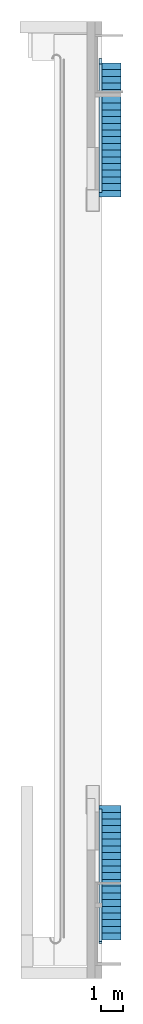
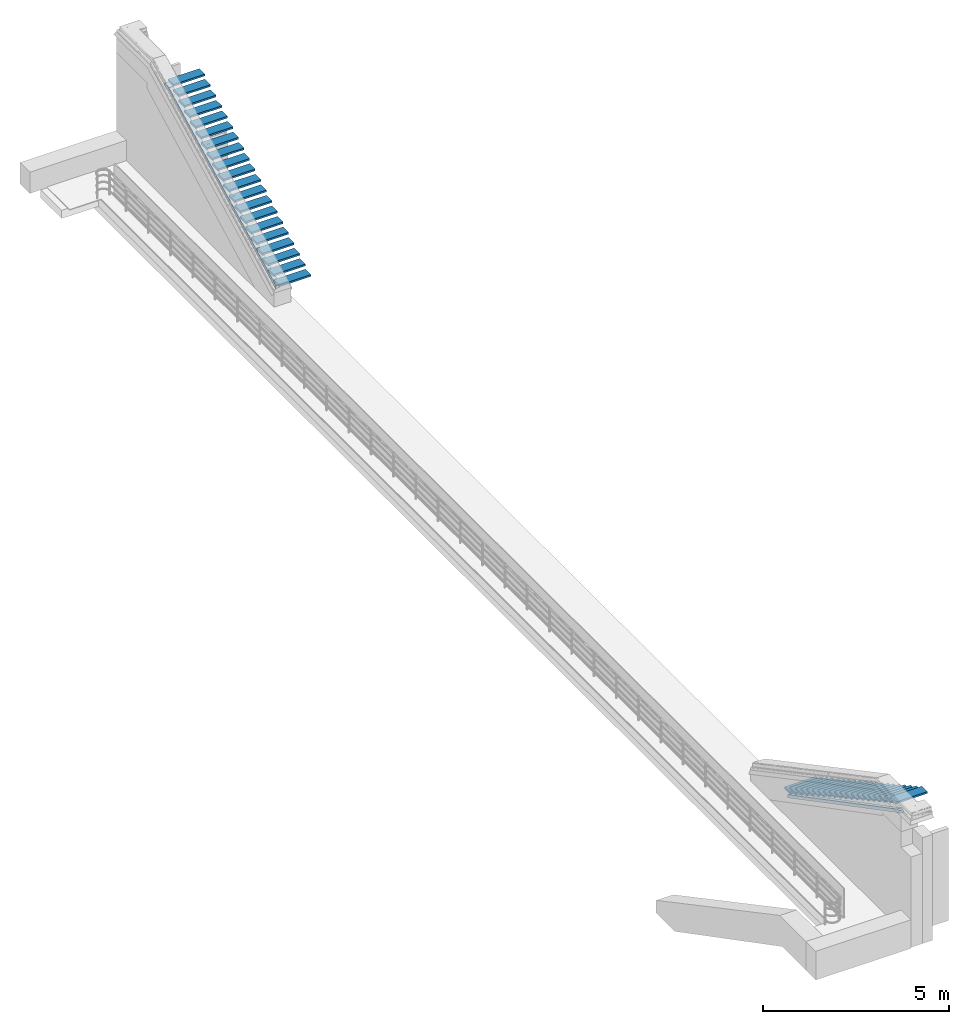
# One storey, part 2 of 5: 2 roofs, 2 stair flights, 2 elements without a shape of their own.
"""IFC2X3 building model written with IfcOpenShell, lengths in millimetres."""

from ifc_helpers import new_model, entity, si_unit, converted_unit, derived_unit, direction, frame, frame_2d, origin, origin_2d_with_axis, place, context, subcontext, project, spatial, rectangle, extrude, faceted_brep, material, layer, layer_set, type_object, element, aggregate, save


model = new_model("IFC2X3")

# Units and contexts
model_context = context("Model", 3, precision=0.01, world=origin(), true_north=direction((6.123031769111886e-17, 1.0)))
body_context = subcontext(model_context, "Body", "Model", "MODEL_VIEW")
ifc_project = project(units=[si_unit("LENGTHUNIT", "METRE", prefix="MILLI"), si_unit("AREAUNIT", "SQUARE_METRE"), si_unit("VOLUMEUNIT", "CUBIC_METRE"), converted_unit("PLANEANGLEUNIT", "DEGREE", entity("IfcPlaneAngleMeasure", 0.017453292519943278), si_unit("PLANEANGLEUNIT", "RADIAN"), dimensions=[0, 0, 0, 0, 0, 0, 0]), si_unit("MASSUNIT", "GRAM", prefix="KILO"), derived_unit("MASSDENSITYUNIT", [(si_unit("MASSUNIT", "GRAM", prefix="KILO"), 1), (si_unit("LENGTHUNIT", "METRE"), -3)]), derived_unit("IONCONCENTRATIONUNIT", [(si_unit("MASSUNIT", "GRAM", prefix="KILO"), 1), (si_unit("LENGTHUNIT", "METRE"), -3)]), derived_unit("MOMENTOFINERTIAUNIT", [(si_unit("LENGTHUNIT", "METRE"), 4)]), si_unit("TIMEUNIT", "SECOND"), si_unit("FREQUENCYUNIT", "HERTZ"), si_unit("THERMODYNAMICTEMPERATUREUNIT", "DEGREE_CELSIUS"), derived_unit("THERMALTRANSMITTANCEUNIT", [(si_unit("MASSUNIT", "GRAM", prefix="KILO"), 1), (si_unit("THERMODYNAMICTEMPERATUREUNIT", "KELVIN"), -1), (si_unit("TIMEUNIT", "SECOND"), -3)]), derived_unit("THERMALCONDUCTANCEUNIT", [(si_unit("MASSUNIT", "GRAM", prefix="KILO"), 1), (si_unit("THERMODYNAMICTEMPERATUREUNIT", "KELVIN"), -1), (si_unit("TIMEUNIT", "SECOND"), -3), (si_unit("LENGTHUNIT", "METRE"), 1)]), derived_unit("VOLUMETRICFLOWRATEUNIT", [(si_unit("LENGTHUNIT", "METRE", prefix="DECI"), 3), (si_unit("TIMEUNIT", "SECOND"), -1)]), derived_unit("MASSFLOWRATEUNIT", [(si_unit("MASSUNIT", "GRAM", prefix="KILO"), 1), (si_unit("TIMEUNIT", "SECOND"), -1)]), derived_unit("ROTATIONALFREQUENCYUNIT", [(si_unit("TIMEUNIT", "SECOND"), -1)]), si_unit("ELECTRICCURRENTUNIT", "AMPERE"), si_unit("ELECTRICVOLTAGEUNIT", "VOLT"), si_unit("POWERUNIT", "WATT"), si_unit("FORCEUNIT", "NEWTON", prefix="KILO"), si_unit("ILLUMINANCEUNIT", "LUX"), si_unit("LUMINOUSFLUXUNIT", "LUMEN"), si_unit("LUMINOUSINTENSITYUNIT", "CANDELA"), si_unit("ENERGYUNIT", "JOULE"), derived_unit("USERDEFINED", [(si_unit("MASSUNIT", "GRAM", prefix="KILO"), -1), (si_unit("LENGTHUNIT", "METRE"), -2), (si_unit("TIMEUNIT", "SECOND"), 3), (si_unit("LUMINOUSFLUXUNIT", "LUMEN"), 1)]), derived_unit("USERDEFINED", [(si_unit("MASSUNIT", "GRAM", prefix="KILO"), 1), (si_unit("TIMEUNIT", "SECOND"), -3), (si_unit("LENGTHUNIT", "METRE"), 3), (si_unit("ELECTRICCURRENTUNIT", "AMPERE"), -2)]), derived_unit("SOUNDPOWERUNIT", [(si_unit("MASSUNIT", "GRAM", prefix="KILO"), 1), (si_unit("TIMEUNIT", "SECOND"), -3), (si_unit("LENGTHUNIT", "METRE"), 2)]), derived_unit("SOUNDPRESSUREUNIT", [(si_unit("MASSUNIT", "GRAM", prefix="KILO"), 1), (si_unit("LENGTHUNIT", "METRE"), -1), (si_unit("TIMEUNIT", "SECOND"), -2)]), derived_unit("LINEARVELOCITYUNIT", [(si_unit("LENGTHUNIT", "METRE"), 1), (si_unit("TIMEUNIT", "SECOND"), -1)]), si_unit("PRESSUREUNIT", "PASCAL"), derived_unit("USERDEFINED", [(si_unit("MASSUNIT", "GRAM", prefix="KILO"), 1), (si_unit("LENGTHUNIT", "METRE"), -2), (si_unit("TIMEUNIT", "SECOND"), -2)]), derived_unit("LINEARFORCEUNIT", [(si_unit("MASSUNIT", "GRAM", prefix="KILO"), 1), (si_unit("TIMEUNIT", "SECOND"), -2)]), derived_unit("PLANARFORCEUNIT", [(si_unit("MASSUNIT", "GRAM", prefix="KILO"), 1), (si_unit("LENGTHUNIT", "METRE"), -1), (si_unit("TIMEUNIT", "SECOND"), -2)]), derived_unit("SPECIFICHEATCAPACITYUNIT", [(si_unit("THERMODYNAMICTEMPERATUREUNIT", "KELVIN"), -1), (si_unit("LENGTHUNIT", "METRE"), 2), (si_unit("TIMEUNIT", "SECOND"), -2)]), derived_unit("HEATFLUXDENSITYUNIT", [(si_unit("MASSUNIT", "GRAM", prefix="KILO"), 1), (si_unit("TIMEUNIT", "SECOND"), -3)]), derived_unit("HEATINGVALUEUNIT", [(si_unit("LENGTHUNIT", "METRE"), 2), (si_unit("TIMEUNIT", "SECOND"), -2)]), derived_unit("VAPORPERMEABILITYUNIT", [(si_unit("LENGTHUNIT", "METRE"), -1), (si_unit("TIMEUNIT", "SECOND"), 1)]), derived_unit("DYNAMICVISCOSITYUNIT", [(si_unit("MASSUNIT", "GRAM", prefix="KILO"), 1), (si_unit("TIMEUNIT", "SECOND"), -1), (si_unit("LENGTHUNIT", "METRE"), -1)]), derived_unit("THERMALEXPANSIONCOEFFICIENTUNIT", [(si_unit("THERMODYNAMICTEMPERATUREUNIT", "KELVIN"), -1)]), derived_unit("MODULUSOFELASTICITYUNIT", [(si_unit("MASSUNIT", "GRAM", prefix="KILO"), 1), (si_unit("LENGTHUNIT", "METRE"), -1), (si_unit("TIMEUNIT", "SECOND"), -2)]), derived_unit("ISOTHERMALMOISTURECAPACITYUNIT", [(si_unit("MASSUNIT", "GRAM", prefix="KILO"), -1), (si_unit("LENGTHUNIT", "METRE"), 3)]), derived_unit("MOISTUREDIFFUSIVITYUNIT", [(si_unit("TIMEUNIT", "SECOND"), -1), (si_unit("LENGTHUNIT", "METRE"), 2)]), derived_unit("MASSPERLENGTHUNIT", [(si_unit("MASSUNIT", "GRAM", prefix="KILO"), 1), (si_unit("LENGTHUNIT", "METRE"), -1)]), derived_unit("THERMALRESISTANCEUNIT", [(si_unit("MASSUNIT", "GRAM", prefix="KILO"), -1), (si_unit("TIMEUNIT", "SECOND"), 3), (si_unit("THERMODYNAMICTEMPERATUREUNIT", "KELVIN"), 1)]), derived_unit("ACCELERATIONUNIT", [(si_unit("LENGTHUNIT", "METRE"), 1), (si_unit("TIMEUNIT", "SECOND"), -2)]), derived_unit("ANGULARVELOCITYUNIT", [(si_unit("TIMEUNIT", "SECOND"), -1), (si_unit("PLANEANGLEUNIT", "RADIAN"), 1)]), derived_unit("LINEARSTIFFNESSUNIT", [(si_unit("MASSUNIT", "GRAM", prefix="KILO"), 1), (si_unit("TIMEUNIT", "SECOND"), -2)]), derived_unit("WARPINGCONSTANTUNIT", [(si_unit("LENGTHUNIT", "METRE"), 6)]), derived_unit("LINEARMOMENTUNIT", [(si_unit("MASSUNIT", "GRAM", prefix="KILO"), 1), (si_unit("LENGTHUNIT", "METRE"), 1), (si_unit("TIMEUNIT", "SECOND"), -2)]), derived_unit("TORQUEUNIT", [(si_unit("MASSUNIT", "GRAM", prefix="KILO"), 1), (si_unit("LENGTHUNIT", "METRE"), 2), (si_unit("TIMEUNIT", "SECOND"), -2)])], contexts=[model_context])

# Site, building, storey
site_placement = place(None, origin())
site = spatial("IfcSite", under=ifc_project, at=site_placement, Name="Default", CompositionType="ELEMENT")
building_placement = place(site_placement, origin())
building = spatial("IfcBuilding", under=site, at=building_placement, Name="Eesti Rahvusraamatukogu hoone renoveerimise projekteerimistööd", CompositionType="ELEMENT")
storey_placement = place(building_placement, frame((0.0, 0.0, 11550.000000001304)))
storey = spatial("IfcBuildingStorey", under=building, at=storey_placement, Name="4. korrus", CompositionType="ELEMENT", Elevation=11550.000000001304)

# Stair, stair flight
stair_1_placement = place(storey_placement, origin())
stair_1 = element("IfcStair", 1, at=stair_1_placement, inside=storey, Name="Assembled Stair:Stair", ObjectType="Assembled Stair:VTR-11, 165x300mm", ShapeType="STRAIGHT_RUN_STAIR")
ifc_material_1 = material(Name="EST. Betoonplaat")
stair_flight_type = type_object("IfcStairFlightType", Name="Non-Monolithic Run:Graniitplaat 60mm", PredefinedType="STRAIGHT")
stair_flight_1_placement = place(stair_1_placement, frame((-31750.0, 40926.00000000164, 0.0)))
stair_flight_1 = element("IfcStairFlight", 2, at=stair_flight_1_placement, type_object=stair_flight_type, material=ifc_material_1, Name="Assembled Stair:Stair:12056405 Run 1", ObjectType="Non-Monolithic Run:Graniitplaat 60mm", NumberOfRiser=20, NumberOfTreads=20, RiserHeight=0.5413385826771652, TreadLength=0.984251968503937, context=body_context, shape_type="SweptSolid", body=[
    extrude(rectangle(XDim=300.0000000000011, YDim=980.0000000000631, at=frame_2d((0.0, 4.320099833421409e-12), x_axis=(1.0, 0.0))), frame((490.0, 150.0, 345.0), z_axis=(0.0, 0.0, 1.0), x_axis=(0.0, -1.0, 0.0)), (0.0, 0.0, 1.0), 59.99999999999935),
    extrude(rectangle(XDim=300.0000000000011, YDim=980.0000000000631, at=frame_2d((0.0, 4.320099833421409e-12), x_axis=(1.0, 0.0))), frame((490.0, 450.0, 510.0), z_axis=(0.0, 0.0, 1.0), x_axis=(0.0, -1.0, 0.0)), (0.0, 0.0, 1.0), 59.99999999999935),
    extrude(rectangle(XDim=300.0000000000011, YDim=980.0000000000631, at=frame_2d((0.0, 4.320099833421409e-12), x_axis=(1.0, 0.0))), frame((490.0, 750.0, 675.0), z_axis=(0.0, 0.0, 1.0), x_axis=(0.0, -1.0, 0.0)), (0.0, 0.0, 1.0), 59.99999999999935),
    extrude(rectangle(XDim=300.0000000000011, YDim=980.0000000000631, at=frame_2d((0.0, 4.320099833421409e-12), x_axis=(1.0, 0.0))), frame((490.0, 1050.0, 840.0), z_axis=(0.0, 0.0, 1.0), x_axis=(0.0, -1.0, 0.0)), (0.0, 0.0, 1.0), 59.99999999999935),
    extrude(rectangle(XDim=300.0000000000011, YDim=980.0000000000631, at=origin_2d_with_axis()), frame((490.0, 1350.0, 1005.0), z_axis=(0.0, 0.0, 1.0), x_axis=(0.0, -1.0, 0.0)), (0.0, 0.0, 1.0), 59.99999999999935),
    extrude(rectangle(XDim=300.0000000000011, YDim=980.0000000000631, at=origin_2d_with_axis()), frame((490.0, 1650.0, 1170.0), z_axis=(0.0, 0.0, 1.0), x_axis=(0.0, -1.0, 0.0)), (0.0, 0.0, 1.0), 59.99999999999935),
    extrude(rectangle(XDim=300.0000000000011, YDim=980.0000000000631, at=origin_2d_with_axis()), frame((490.0, 1950.0, 1335.0), z_axis=(0.0, 0.0, 1.0), x_axis=(0.0, -1.0, 0.0)), (0.0, 0.0, 1.0), 59.99999999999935),
    extrude(rectangle(XDim=300.0000000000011, YDim=980.0000000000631, at=origin_2d_with_axis()), frame((490.0, 2250.0, 1500.0), z_axis=(0.0, 0.0, 1.0), x_axis=(0.0, -1.0, 0.0)), (0.0, 0.0, 1.0), 59.99999999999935),
    extrude(rectangle(XDim=300.0000000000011, YDim=980.0000000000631, at=origin_2d_with_axis()), frame((490.0, 2550.0, 1665.0), z_axis=(0.0, 0.0, 1.0), x_axis=(0.0, -1.0, 0.0)), (0.0, 0.0, 1.0), 59.99999999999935),
    extrude(rectangle(XDim=300.0000000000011, YDim=980.0000000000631, at=origin_2d_with_axis()), frame((490.0, 2850.0, 1830.0), z_axis=(0.0, 0.0, 1.0), x_axis=(0.0, -1.0, 0.0)), (0.0, 0.0, 1.0), 59.99999999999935),
    extrude(rectangle(XDim=300.0000000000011, YDim=980.0000000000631, at=origin_2d_with_axis()), frame((490.0, 3150.0, 1995.0), z_axis=(0.0, 0.0, 1.0), x_axis=(0.0, -1.0, 0.0)), (0.0, 0.0, 1.0), 59.99999999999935),
    extrude(rectangle(XDim=300.0000000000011, YDim=980.0000000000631, at=origin_2d_with_axis()), frame((490.0, 3450.0, 2160.0), z_axis=(0.0, 0.0, 1.0), x_axis=(0.0, -1.0, 0.0)), (0.0, 0.0, 1.0), 59.99999999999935),
    extrude(rectangle(XDim=300.0000000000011, YDim=980.0000000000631, at=origin_2d_with_axis()), frame((490.0, 3750.0, 2325.0), z_axis=(0.0, 0.0, 1.0), x_axis=(0.0, -1.0, 0.0)), (0.0, 0.0, 1.0), 59.99999999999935),
    extrude(rectangle(XDim=300.0000000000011, YDim=980.0000000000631, at=origin_2d_with_axis()), frame((490.0, 4050.0, 2490.0), z_axis=(0.0, 0.0, 1.0), x_axis=(0.0, -1.0, 0.0)), (0.0, 0.0, 1.0), 59.99999999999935),
    extrude(rectangle(XDim=300.0000000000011, YDim=980.0000000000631, at=origin_2d_with_axis()), frame((490.0, 4350.0, 2655.0), z_axis=(0.0, 0.0, 1.0), x_axis=(0.0, -1.0, 0.0)), (0.0, 0.0, 1.0), 59.99999999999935),
    extrude(rectangle(XDim=300.0000000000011, YDim=980.0000000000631, at=origin_2d_with_axis()), frame((490.0, 4650.0, 2820.0), z_axis=(0.0, 0.0, 1.0), x_axis=(0.0, -1.0, 0.0)), (0.0, 0.0, 1.0), 59.99999999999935),
    extrude(rectangle(XDim=300.0000000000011, YDim=980.0000000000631, at=origin_2d_with_axis()), frame((490.0, 4950.0, 2985.0), z_axis=(0.0, 0.0, 1.0), x_axis=(0.0, -1.0, 0.0)), (0.0, 0.0, 1.0), 59.99999999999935),
    extrude(rectangle(XDim=300.0000000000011, YDim=980.0000000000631, at=origin_2d_with_axis()), frame((490.0, 5250.0, 3150.0), z_axis=(0.0, 0.0, 1.0), x_axis=(0.0, -1.0, 0.0)), (0.0, 0.0, 1.0), 59.99999999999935),
    extrude(rectangle(XDim=300.0000000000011, YDim=980.0000000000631, at=origin_2d_with_axis()), frame((490.0, 5550.0, 3315.0), z_axis=(0.0, 0.0, 1.0), x_axis=(0.0, -1.0, 0.0)), (0.0, 0.0, 1.0), 59.99999999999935),
    extrude(rectangle(XDim=300.0000000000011, YDim=980.0000000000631, at=origin_2d_with_axis()), frame((490.0, 5850.0, 3480.0), z_axis=(0.0, 0.0, 1.0), x_axis=(0.0, -1.0, 0.0)), (0.0, 0.0, 1.0), 59.99999999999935),
])
aggregate(stair_1, [stair_flight_1])

stair_2_placement = place(storey_placement, origin())
stair_2 = element("IfcStair", 3, at=stair_2_placement, inside=storey, Name="Assembled Stair:Stair", ObjectType="Assembled Stair:VTR-11, 165x300mm", ShapeType="STRAIGHT_RUN_STAIR")
stair_flight_2_placement = place(stair_2_placement, frame((-31750.0, 7733.999999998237, 0.0)))
stair_flight_2 = element("IfcStairFlight", 4, at=stair_flight_2_placement, type_object=stair_flight_type, material=ifc_material_1, Name="Assembled Stair:Stair:12056749 Run 1", ObjectType="Non-Monolithic Run:Graniitplaat 60mm", NumberOfRiser=20, NumberOfTreads=20, RiserHeight=0.5413385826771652, TreadLength=0.984251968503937, context=body_context, shape_type="SweptSolid", body=[
    extrude(rectangle(XDim=300.0000000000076, YDim=980.0000000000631, at=frame_2d((-3.254285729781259e-12, 0.0), x_axis=(1.0, 0.0))), frame((490.0, 5850.0, 345.0), z_axis=(0.0, 0.0, 1.0), x_axis=(0.0, 1.0, 0.0)), (0.0, 0.0, 1.0), 59.99999999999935),
    extrude(rectangle(XDim=299.99999999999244, YDim=980.0000000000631, at=frame_2d((4.334310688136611e-12, 2.1600499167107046e-12), x_axis=(1.0, 0.0))), frame((490.0, 5550.0, 510.0), z_axis=(0.0, 0.0, 1.0), x_axis=(0.0, 1.0, 0.0)), (0.0, 0.0, 1.0), 59.99999999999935),
    extrude(rectangle(XDim=299.99999999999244, YDim=980.0000000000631, at=frame_2d((2.1600499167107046e-12, 2.1600499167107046e-12), x_axis=(1.0, 0.0))), frame((490.0, 5250.0, 675.0), z_axis=(0.0, 0.0, 1.0), x_axis=(0.0, 1.0, 0.0)), (0.0, 0.0, 1.0), 59.99999999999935),
    extrude(rectangle(XDim=299.99999999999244, YDim=980.0000000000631, at=frame_2d((2.1600499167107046e-12, 2.1600499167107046e-12), x_axis=(1.0, 0.0))), frame((490.0, 4950.0, 840.0), z_axis=(0.0, 0.0, 1.0), x_axis=(0.0, 1.0, 0.0)), (0.0, 0.0, 1.0), 59.99999999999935),
    extrude(rectangle(XDim=299.99999999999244, YDim=980.0000000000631, at=frame_2d((2.1600499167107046e-12, 2.1600499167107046e-12), x_axis=(1.0, 0.0))), frame((490.0, 4650.0, 1005.0), z_axis=(0.0, 0.0, 1.0), x_axis=(0.0, 1.0, 0.0)), (0.0, 0.0, 1.0), 59.99999999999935),
    extrude(rectangle(XDim=299.99999999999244, YDim=980.0000000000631, at=frame_2d((2.1600499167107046e-12, 2.1600499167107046e-12), x_axis=(1.0, 0.0))), frame((490.0, 4350.0, 1170.0), z_axis=(0.0, 0.0, 1.0), x_axis=(0.0, 1.0, 0.0)), (0.0, 0.0, 1.0), 59.99999999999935),
    extrude(rectangle(XDim=299.99999999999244, YDim=980.0000000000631, at=frame_2d((4.334310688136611e-12, 2.1600499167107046e-12), x_axis=(1.0, 0.0))), frame((490.0, 4050.0, 1335.0), z_axis=(0.0, 0.0, 1.0), x_axis=(0.0, 1.0, 0.0)), (0.0, 0.0, 1.0), 59.99999999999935),
    extrude(rectangle(XDim=299.99999999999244, YDim=980.0000000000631, at=frame_2d((2.1600499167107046e-12, -2.1600499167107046e-12), x_axis=(1.0, 0.0))), frame((490.0, 3750.0, 1500.0), z_axis=(0.0, 0.0, 1.0), x_axis=(0.0, 1.0, 0.0)), (0.0, 0.0, 1.0), 59.99999999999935),
    extrude(rectangle(XDim=299.99999999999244, YDim=980.0000000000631, at=frame_2d((2.1600499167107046e-12, -2.1600499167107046e-12), x_axis=(1.0, 0.0))), frame((490.0, 3450.0, 1665.0), z_axis=(0.0, 0.0, 1.0), x_axis=(0.0, 1.0, 0.0)), (0.0, 0.0, 1.0), 59.99999999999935),
    extrude(rectangle(XDim=299.99999999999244, YDim=980.0000000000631, at=frame_2d((2.1600499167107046e-12, -2.1600499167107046e-12), x_axis=(1.0, 0.0))), frame((490.0, 3150.0, 1830.0), z_axis=(0.0, 0.0, 1.0), x_axis=(0.0, 1.0, 0.0)), (0.0, 0.0, 1.0), 59.99999999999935),
    extrude(rectangle(XDim=299.99999999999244, YDim=980.0000000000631, at=frame_2d((2.1600499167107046e-12, -2.1600499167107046e-12), x_axis=(1.0, 0.0))), frame((490.0, 2850.0, 1995.0), z_axis=(0.0, 0.0, 1.0), x_axis=(0.0, 1.0, 0.0)), (0.0, 0.0, 1.0), 59.99999999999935),
    extrude(rectangle(XDim=299.99999999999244, YDim=980.0000000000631, at=frame_2d((2.1600499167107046e-12, -2.1600499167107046e-12), x_axis=(1.0, 0.0))), frame((490.0, 2550.0, 2160.0), z_axis=(0.0, 0.0, 1.0), x_axis=(0.0, 1.0, 0.0)), (0.0, 0.0, 1.0), 59.99999999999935),
    extrude(rectangle(XDim=299.99999999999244, YDim=980.0000000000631, at=frame_2d((2.1600499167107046e-12, 2.1600499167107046e-12), x_axis=(1.0, 0.0))), frame((490.0, 2250.0, 2325.0), z_axis=(0.0, 0.0, 1.0), x_axis=(0.0, 1.0, 0.0)), (0.0, 0.0, 1.0), 59.99999999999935),
    extrude(rectangle(XDim=299.99999999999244, YDim=980.0000000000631, at=frame_2d((2.1600499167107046e-12, 2.1600499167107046e-12), x_axis=(1.0, 0.0))), frame((490.0, 1950.0, 2490.0), z_axis=(0.0, 0.0, 1.0), x_axis=(0.0, 1.0, 0.0)), (0.0, 0.0, 1.0), 59.99999999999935),
    extrude(rectangle(XDim=299.99999999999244, YDim=980.0000000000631, at=frame_2d((3.254285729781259e-12, 2.1600499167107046e-12), x_axis=(1.0, 0.0))), frame((490.0, 1650.0, 2655.0), z_axis=(0.0, 0.0, 1.0), x_axis=(0.0, 1.0, 0.0)), (0.0, 0.0, 1.0), 59.99999999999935),
    extrude(rectangle(XDim=299.99999999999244, YDim=980.0000000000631, at=frame_2d((3.254285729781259e-12, 2.1600499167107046e-12), x_axis=(1.0, 0.0))), frame((490.0, 1350.0, 2820.0), z_axis=(0.0, 0.0, 1.0), x_axis=(0.0, 1.0, 0.0)), (0.0, 0.0, 1.0), 59.99999999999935),
    extrude(rectangle(XDim=299.99999999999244, YDim=980.0000000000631, at=frame_2d((3.254285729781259e-12, 2.1600499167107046e-12), x_axis=(1.0, 0.0))), frame((490.0, 1050.0, 2985.0), z_axis=(0.0, 0.0, 1.0), x_axis=(0.0, 1.0, 0.0)), (0.0, 0.0, 1.0), 59.99999999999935),
    extrude(rectangle(XDim=299.99999999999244, YDim=980.0000000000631, at=frame_2d((3.254285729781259e-12, 2.1600499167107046e-12), x_axis=(1.0, 0.0))), frame((490.0, 750.0, 3150.0), z_axis=(0.0, 0.0, 1.0), x_axis=(0.0, 1.0, 0.0)), (0.0, 0.0, 1.0), 59.99999999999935),
    extrude(rectangle(XDim=299.99999999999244, YDim=980.0000000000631, at=frame_2d((3.254285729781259e-12, 2.1600499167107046e-12), x_axis=(1.0, 0.0))), frame((490.0, 450.0, 3315.0), z_axis=(0.0, 0.0, 1.0), x_axis=(0.0, 1.0, 0.0)), (0.0, 0.0, 1.0), 59.99999999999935),
    extrude(rectangle(XDim=299.99999999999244, YDim=980.0000000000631, at=frame_2d((3.254285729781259e-12, 2.1600499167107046e-12), x_axis=(1.0, 0.0))), frame((490.0, 150.0, 3480.0), z_axis=(0.0, 0.0, 1.0), x_axis=(0.0, 1.0, 0.0)), (0.0, 0.0, 1.0), 59.99999999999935),
])
aggregate(stair_2, [stair_flight_2])

# Roofs
ifc_material_2 = material(Name="EST. Rullmaterjal. SBS")
ifc_layer_1 = layer(ifc_material_2, 5.0)
ifc_material_3 = material(Name="EST. Soojustus.PIR_Eurothane Silver E")
ifc_layer_2 = layer(ifc_material_3, 70.0)
ifc_material_4 = material(Name="EST. Betoon. Kohtvalu. Tasandus")
ifc_layer_3 = layer(ifc_material_4, 20.0)
ifc_layer_set = layer_set([ifc_layer_1, ifc_layer_2, ifc_layer_3], Name="Basic Roof:KL-22 - lugemissaalide välistrepi alused")
roof_1_placement = place(storey_placement, frame((-31750.0, 41128.00000000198, 159.57607331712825)))
element("IfcRoof", 5, at=roof_1_placement, inside=storey, material=ifc_layer_set, Name="Basic Roof:KL-22 - lugemissaalide välistrepi alused", ObjectType="Basic Roof:KL-22 - lugemissaalide välistrepi alused", ShapeType="NOTDEFINED", context=body_context, shape_type="Brep", body=[
    faceted_brep([(0.0, 0.0, 107.25522242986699), (0.0, 5749.586103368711, 3120.4239266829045), (0.0, 6000.0, 3120.4239266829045), (0.0, 6000.0, 3025.4239266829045), (0.0, 5772.970939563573, 3025.4239266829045), (0.0, 0.0, 0.0), (140.18156877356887, 0.0, 107.25522242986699), (140.18156877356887, 5749.586103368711, 3120.4239266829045), (140.18156877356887, 6000.0, 3120.4239266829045), (140.18156877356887, 6000.0, 3025.4239266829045), (140.18156877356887, 5772.970939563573, 3025.4239266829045), (140.18156877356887, 0.0, 0.0)], [[[0, 1, 2, 3, 4, 5]], [[1, 0, 6, 7]], [[2, 1, 7, 8]], [[3, 2, 8, 9]], [[4, 3, 9, 10]], [[5, 4, 10, 11]], [[0, 5, 11, 6]], [[7, 6, 11, 10, 9, 8]]]),
])
roof_2_placement = place(storey_placement, frame((-31750.0, 7571.000000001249, 139.6189291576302)))
element("IfcRoof", 6, at=roof_2_placement, inside=storey, material=ifc_layer_set, Name="Basic Roof:KL-22 - lugemissaalide välistrepi alused", ObjectType="Basic Roof:KL-22 - lugemissaalide välistrepi alused", ShapeType="NOTDEFINED", context=body_context, shape_type="Brep", body=[
    faceted_brep([(0.0, 6000.0, 107.30800139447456), (0.0, 6000.0, 0.0), (0.0, 73.65599384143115, 3112.8883942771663), (0.0, 0.0, 3112.8883942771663), (0.0, 0.0, 3207.8883942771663), (0.0, 97.08807397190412, 3207.8883942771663), (140.18156877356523, 6000.0, 107.30800139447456), (140.18156877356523, 97.0880739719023, 3207.8883942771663), (140.18156877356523, 0.0, 3207.8883942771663), (140.18156877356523, 0.0, 3112.8883942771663), (140.18156877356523, 73.65599384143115, 3112.8883942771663), (140.18156877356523, 6000.0, 0.0)], [[[0, 1, 2, 3, 4, 5]], [[6, 0, 5, 7]], [[7, 5, 4, 8]], [[8, 4, 3, 9]], [[9, 3, 2, 10]], [[10, 2, 1, 11]], [[11, 1, 0, 6]], [[6, 7, 8, 9, 10, 11]]]),
])

save(model, "model.ifc")
